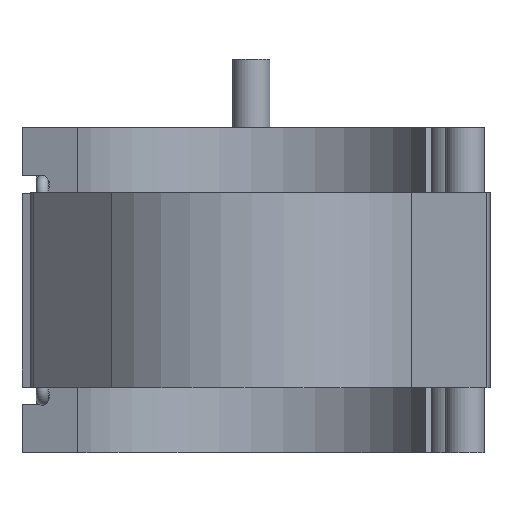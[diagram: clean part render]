
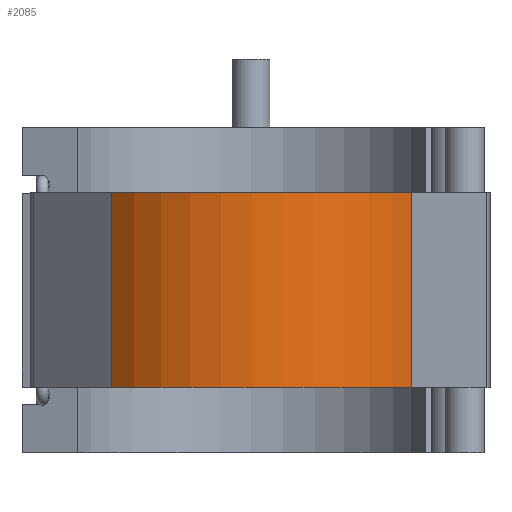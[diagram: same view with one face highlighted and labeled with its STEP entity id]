
A CAD part, front view. The second image highlights one B-rep face of the part: STEP entity #2085.
In plain terms, the highlighted cylindrical face has radius 103 mm (diameter 206 mm), a partial arc.
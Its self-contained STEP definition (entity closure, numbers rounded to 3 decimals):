
#66=CYLINDRICAL_SURFACE('',#2277,103.);
#118=CIRCLE('',#2192,103.);
#127=CIRCLE('',#2202,103.);
#264=FACE_OUTER_BOUND('',#390,.T.);
#390=EDGE_LOOP('',(#1614,#1615,#1616,#1617));
#582=LINE('',#3380,#761);
#583=LINE('',#3382,#762);
#761=VECTOR('',#2702,10.);
#762=VECTOR('',#2705,10.);
#852=VERTEX_POINT('',#3098);
#853=VERTEX_POINT('',#3100);
#868=VERTEX_POINT('',#3132);
#869=VERTEX_POINT('',#3134);
#1054=EDGE_CURVE('',#852,#853,#118,.T.);
#1071=EDGE_CURVE('',#868,#869,#127,.T.);
#1191=EDGE_CURVE('',#852,#869,#582,.T.);
#1192=EDGE_CURVE('',#853,#868,#583,.T.);
#1614=ORIENTED_EDGE('',*,*,#1191,.T.);
#1615=ORIENTED_EDGE('',*,*,#1071,.F.);
#1616=ORIENTED_EDGE('',*,*,#1192,.F.);
#1617=ORIENTED_EDGE('',*,*,#1054,.F.);
#2085=ADVANCED_FACE('',(#264),#66,.T.);
#2192=AXIS2_PLACEMENT_3D('',#3101,#2443,#2444);
#2202=AXIS2_PLACEMENT_3D('',#3135,#2471,#2472);
#2277=AXIS2_PLACEMENT_3D('',#3381,#2703,#2704);
#2443=DIRECTION('center_axis',(0.,0.,-1.));
#2444=DIRECTION('ref_axis',(0.992,0.126,0.));
#2471=DIRECTION('center_axis',(0.,0.,1.));
#2472=DIRECTION('ref_axis',(0.992,0.126,0.));
#2702=DIRECTION('',(0.,0.,1.));
#2703=DIRECTION('center_axis',(0.,0.,1.));
#2704=DIRECTION('ref_axis',(0.992,0.126,0.));
#2705=DIRECTION('',(0.,0.,1.));
#3098=CARTESIAN_POINT('',(86.757,-55.518,-52.8));
#3100=CARTESIAN_POINT('',(-75.771,-69.77,-52.8));
#3101=CARTESIAN_POINT('Origin',(0.,0.,-52.8));
#3132=CARTESIAN_POINT('',(-75.771,-69.77,52.8));
#3134=CARTESIAN_POINT('',(86.757,-55.518,52.8));
#3135=CARTESIAN_POINT('Origin',(0.,0.,52.8));
#3380=CARTESIAN_POINT('',(86.757,-55.518,0.));
#3381=CARTESIAN_POINT('Origin',(0.,0.,0.));
#3382=CARTESIAN_POINT('',(-75.771,-69.77,0.));
